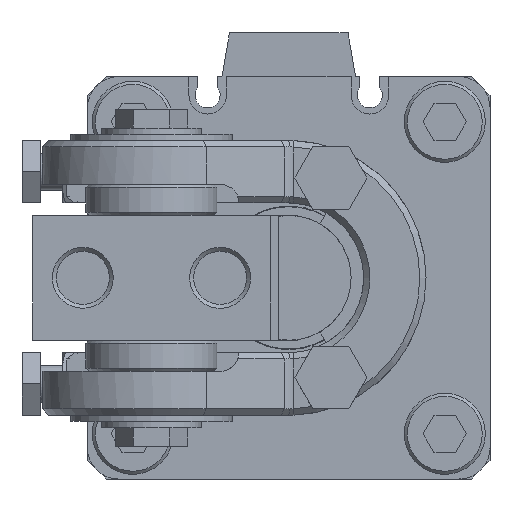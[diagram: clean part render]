
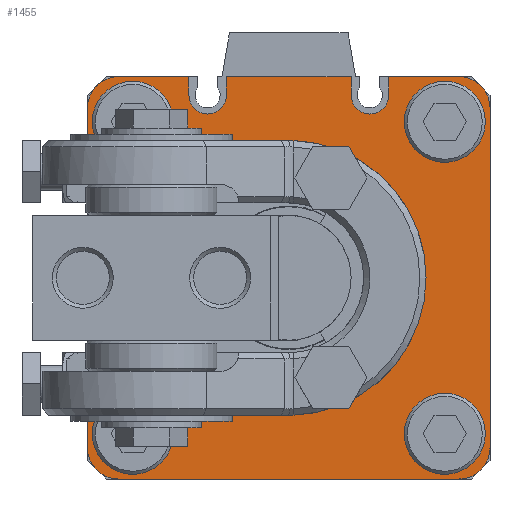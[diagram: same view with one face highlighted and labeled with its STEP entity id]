
A CAD part, front view. The second image highlights one B-rep face of the part: STEP entity #1455.
In plain terms, the highlighted planar face has unit normal (0, -1, 0).
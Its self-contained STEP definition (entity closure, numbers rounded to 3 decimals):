
#575=CIRCLE('',#8653,5.);
#576=CIRCLE('',#8654,5.);
#577=CIRCLE('',#8655,5.);
#578=CIRCLE('',#8656,3.);
#579=CIRCLE('',#8657,3.);
#580=CIRCLE('',#8658,5.);
#581=CIRCLE('',#8659,4.3);
#582=CIRCLE('',#8660,4.3);
#583=CIRCLE('',#8661,4.3);
#584=CIRCLE('',#8662,4.3);
#585=CIRCLE('',#8663,8.);
#586=CIRCLE('',#8664,22.);
#587=CIRCLE('',#8665,8.);
#936=FACE_BOUND('',#2660,.T.);
#937=FACE_BOUND('',#2661,.T.);
#938=FACE_BOUND('',#2662,.T.);
#939=FACE_BOUND('',#2663,.T.);
#940=FACE_BOUND('',#2664,.T.);
#941=FACE_BOUND('',#2665,.T.);
#1455=ADVANCED_FACE('',(#936,#937,#938,#939,#940,#941),#2011,.F.);
#2011=PLANE('',#8666);
#2660=EDGE_LOOP('',(#3561,#3562,#3563,#3564,#3565,#3566,#3567,#3568,#3569,
#3570,#3571,#3572,#3573,#3574,#3575,#3576));
#2661=EDGE_LOOP('',(#3577));
#2662=EDGE_LOOP('',(#3578));
#2663=EDGE_LOOP('',(#3579));
#2664=EDGE_LOOP('',(#3580));
#2665=EDGE_LOOP('',(#3581,#3582,#3583,#3584,#3585,#3586));
#3561=ORIENTED_EDGE('',*,*,#6442,.T.);
#3562=ORIENTED_EDGE('',*,*,#6443,.F.);
#3563=ORIENTED_EDGE('',*,*,#6444,.T.);
#3564=ORIENTED_EDGE('',*,*,#6445,.F.);
#3565=ORIENTED_EDGE('',*,*,#6446,.T.);
#3566=ORIENTED_EDGE('',*,*,#6447,.F.);
#3567=ORIENTED_EDGE('',*,*,#6448,.T.);
#3568=ORIENTED_EDGE('',*,*,#6449,.F.);
#3569=ORIENTED_EDGE('',*,*,#6450,.F.);
#3570=ORIENTED_EDGE('',*,*,#6451,.F.);
#3571=ORIENTED_EDGE('',*,*,#6452,.T.);
#3572=ORIENTED_EDGE('',*,*,#6453,.F.);
#3573=ORIENTED_EDGE('',*,*,#6454,.F.);
#3574=ORIENTED_EDGE('',*,*,#6455,.F.);
#3575=ORIENTED_EDGE('',*,*,#6456,.T.);
#3576=ORIENTED_EDGE('',*,*,#6457,.F.);
#3577=ORIENTED_EDGE('',*,*,#6458,.T.);
#3578=ORIENTED_EDGE('',*,*,#6459,.T.);
#3579=ORIENTED_EDGE('',*,*,#6460,.T.);
#3580=ORIENTED_EDGE('',*,*,#6461,.T.);
#3581=ORIENTED_EDGE('',*,*,#6462,.T.);
#3582=ORIENTED_EDGE('',*,*,#6463,.T.);
#3583=ORIENTED_EDGE('',*,*,#6464,.F.);
#3584=ORIENTED_EDGE('',*,*,#6465,.F.);
#3585=ORIENTED_EDGE('',*,*,#6466,.T.);
#3586=ORIENTED_EDGE('',*,*,#6438,.F.);
#5652=VERTEX_POINT('',#12044);
#5653=VERTEX_POINT('',#12045);
#5656=VERTEX_POINT('',#12053);
#5657=VERTEX_POINT('',#12054);
#5658=VERTEX_POINT('',#12056);
#5659=VERTEX_POINT('',#12058);
#5660=VERTEX_POINT('',#12060);
#5661=VERTEX_POINT('',#12062);
#5662=VERTEX_POINT('',#12064);
#5663=VERTEX_POINT('',#12066);
#5664=VERTEX_POINT('',#12068);
#5665=VERTEX_POINT('',#12070);
#5666=VERTEX_POINT('',#12072);
#5667=VERTEX_POINT('',#12074);
#5668=VERTEX_POINT('',#12076);
#5669=VERTEX_POINT('',#12078);
#5670=VERTEX_POINT('',#12080);
#5671=VERTEX_POINT('',#12082);
#5672=VERTEX_POINT('',#12085);
#5673=VERTEX_POINT('',#12087);
#5674=VERTEX_POINT('',#12089);
#5675=VERTEX_POINT('',#12091);
#5676=VERTEX_POINT('',#12093);
#5677=VERTEX_POINT('',#12095);
#5678=VERTEX_POINT('',#12097);
#5679=VERTEX_POINT('',#12099);
#6438=EDGE_CURVE('',#5652,#5653,#7505,.T.);
#6442=EDGE_CURVE('',#5656,#5657,#575,.T.);
#6443=EDGE_CURVE('',#5658,#5657,#7509,.T.);
#6444=EDGE_CURVE('',#5658,#5659,#576,.T.);
#6445=EDGE_CURVE('',#5660,#5659,#7510,.T.);
#6446=EDGE_CURVE('',#5660,#5661,#577,.T.);
#6447=EDGE_CURVE('',#5662,#5661,#7511,.T.);
#6448=EDGE_CURVE('',#5662,#5663,#7512,.T.);
#6449=EDGE_CURVE('',#5664,#5663,#578,.T.);
#6450=EDGE_CURVE('',#5665,#5664,#7513,.T.);
#6451=EDGE_CURVE('',#5666,#5665,#7514,.T.);
#6452=EDGE_CURVE('',#5666,#5667,#7515,.T.);
#6453=EDGE_CURVE('',#5668,#5667,#579,.T.);
#6454=EDGE_CURVE('',#5669,#5668,#7516,.T.);
#6455=EDGE_CURVE('',#5670,#5669,#7517,.T.);
#6456=EDGE_CURVE('',#5670,#5671,#580,.T.);
#6457=EDGE_CURVE('',#5656,#5671,#7518,.T.);
#6458=EDGE_CURVE('',#5672,#5672,#581,.T.);
#6459=EDGE_CURVE('',#5673,#5673,#582,.T.);
#6460=EDGE_CURVE('',#5674,#5674,#583,.T.);
#6461=EDGE_CURVE('',#5675,#5675,#584,.T.);
#6462=EDGE_CURVE('',#5652,#5676,#585,.T.);
#6463=EDGE_CURVE('',#5676,#5677,#7519,.T.);
#6464=EDGE_CURVE('',#5678,#5677,#586,.T.);
#6465=EDGE_CURVE('',#5679,#5678,#7520,.T.);
#6466=EDGE_CURVE('',#5679,#5653,#587,.T.);
#7505=LINE('',#12043,#8079);
#7509=LINE('',#12055,#8083);
#7510=LINE('',#12059,#8084);
#7511=LINE('',#12063,#8085);
#7512=LINE('',#12065,#8086);
#7513=LINE('',#12069,#8087);
#7514=LINE('',#12071,#8088);
#7515=LINE('',#12073,#8089);
#7516=LINE('',#12077,#8090);
#7517=LINE('',#12079,#8091);
#7518=LINE('',#12083,#8092);
#7519=LINE('',#12094,#8093);
#7520=LINE('',#12098,#8094);
#8079=VECTOR('',#9639,1.);
#8083=VECTOR('',#9647,1.);
#8084=VECTOR('',#9650,1.);
#8085=VECTOR('',#9653,1.);
#8086=VECTOR('',#9654,1.);
#8087=VECTOR('',#9657,1.);
#8088=VECTOR('',#9658,1.);
#8089=VECTOR('',#9659,1.);
#8090=VECTOR('',#9662,1.);
#8091=VECTOR('',#9663,1.);
#8092=VECTOR('',#9666,1.);
#8093=VECTOR('',#9677,1.);
#8094=VECTOR('',#9680,1.);
#8653=AXIS2_PLACEMENT_3D('',#12052,#9645,#9646);
#8654=AXIS2_PLACEMENT_3D('',#12057,#9648,#9649);
#8655=AXIS2_PLACEMENT_3D('',#12061,#9651,#9652);
#8656=AXIS2_PLACEMENT_3D('',#12067,#9655,#9656);
#8657=AXIS2_PLACEMENT_3D('',#12075,#9660,#9661);
#8658=AXIS2_PLACEMENT_3D('',#12081,#9664,#9665);
#8659=AXIS2_PLACEMENT_3D('',#12084,#9667,#9668);
#8660=AXIS2_PLACEMENT_3D('',#12086,#9669,#9670);
#8661=AXIS2_PLACEMENT_3D('',#12088,#9671,#9672);
#8662=AXIS2_PLACEMENT_3D('',#12090,#9673,#9674);
#8663=AXIS2_PLACEMENT_3D('',#12092,#9675,#9676);
#8664=AXIS2_PLACEMENT_3D('',#12096,#9678,#9679);
#8665=AXIS2_PLACEMENT_3D('',#12100,#9681,#9682);
#8666=AXIS2_PLACEMENT_3D('',#12101,#9683,#9684);
#9639=DIRECTION('',(0.,0.,-1.));
#9645=DIRECTION('',(0.,-1.,0.));
#9646=DIRECTION('',(-1.,0.,0.));
#9647=DIRECTION('',(-1.,0.,0.));
#9648=DIRECTION('',(0.,-1.,0.));
#9649=DIRECTION('',(0.,0.,-1.));
#9650=DIRECTION('',(0.,0.,-1.));
#9651=DIRECTION('',(0.,-1.,0.));
#9652=DIRECTION('',(1.,0.,0.));
#9653=DIRECTION('',(1.,0.,0.));
#9654=DIRECTION('',(0.,0.,-1.));
#9655=DIRECTION('',(0.,-1.,0.));
#9656=DIRECTION('',(-1.,0.,0.));
#9657=DIRECTION('',(0.,0.,-1.));
#9658=DIRECTION('',(1.,0.,0.));
#9659=DIRECTION('',(0.,0.,-1.));
#9660=DIRECTION('',(0.,-1.,0.));
#9661=DIRECTION('',(-1.,0.,0.));
#9662=DIRECTION('',(0.,0.,-1.));
#9663=DIRECTION('',(1.,0.,0.));
#9664=DIRECTION('',(0.,-1.,0.));
#9665=DIRECTION('',(0.,0.,1.));
#9666=DIRECTION('',(0.,0.,1.));
#9667=DIRECTION('',(0.,1.,0.));
#9668=DIRECTION('',(0.,0.,-1.));
#9669=DIRECTION('',(0.,1.,0.));
#9670=DIRECTION('',(0.,0.,-1.));
#9671=DIRECTION('',(0.,1.,0.));
#9672=DIRECTION('',(0.,0.,-1.));
#9673=DIRECTION('',(0.,1.,0.));
#9674=DIRECTION('',(0.,0.,-1.));
#9675=DIRECTION('',(0.,1.,0.));
#9676=DIRECTION('',(-1.,0.,0.));
#9677=DIRECTION('',(1.,0.,0.));
#9678=DIRECTION('',(0.,-1.,0.));
#9679=DIRECTION('',(0.,0.,-1.));
#9680=DIRECTION('',(1.,0.,0.));
#9681=DIRECTION('',(0.,1.,0.));
#9682=DIRECTION('',(0.,0.,-1.));
#9683=DIRECTION('',(0.,1.,0.));
#9684=DIRECTION('',(0.,0.,-1.));
#12043=CARTESIAN_POINT('',(17.,-11.,-25.25));
#12044=CARTESIAN_POINT('',(17.,-11.,-25.25));
#12045=CARTESIAN_POINT('',(17.,-11.,-53.25));
#12052=CARTESIAN_POINT('',(5.,-11.,-66.5));
#12053=CARTESIAN_POINT('',(0.,-11.,-66.5));
#12054=CARTESIAN_POINT('',(5.,-11.,-71.5));
#12055=CARTESIAN_POINT('',(59.5,-11.,-71.5));
#12056=CARTESIAN_POINT('',(59.5,-11.,-71.5));
#12057=CARTESIAN_POINT('',(59.5,-11.,-66.5));
#12058=CARTESIAN_POINT('',(64.5,-11.,-66.5));
#12059=CARTESIAN_POINT('',(64.5,-11.,-12.));
#12060=CARTESIAN_POINT('',(64.5,-11.,-12.));
#12061=CARTESIAN_POINT('',(59.5,-11.,-12.));
#12062=CARTESIAN_POINT('',(59.5,-11.,-7.));
#12063=CARTESIAN_POINT('',(48.25,-11.,-7.));
#12064=CARTESIAN_POINT('',(48.25,-11.,-7.));
#12065=CARTESIAN_POINT('',(48.25,-11.,-7.));
#12066=CARTESIAN_POINT('',(48.25,-11.,-10.));
#12067=CARTESIAN_POINT('',(45.25,-11.,-10.));
#12068=CARTESIAN_POINT('',(42.25,-11.,-10.));
#12069=CARTESIAN_POINT('',(42.25,-11.,-7.));
#12070=CARTESIAN_POINT('',(42.25,-11.,-7.));
#12071=CARTESIAN_POINT('',(22.25,-11.,-7.));
#12072=CARTESIAN_POINT('',(22.25,-11.,-7.));
#12073=CARTESIAN_POINT('',(22.25,-11.,-7.));
#12074=CARTESIAN_POINT('',(22.25,-11.,-10.));
#12075=CARTESIAN_POINT('',(19.25,-11.,-10.));
#12076=CARTESIAN_POINT('',(16.25,-11.,-10.));
#12077=CARTESIAN_POINT('',(16.25,-11.,-7.));
#12078=CARTESIAN_POINT('',(16.25,-11.,-7.));
#12079=CARTESIAN_POINT('',(5.,-11.,-7.));
#12080=CARTESIAN_POINT('',(5.,-11.,-7.));
#12081=CARTESIAN_POINT('',(5.,-11.,-12.));
#12082=CARTESIAN_POINT('',(0.,-11.,-12.));
#12083=CARTESIAN_POINT('',(0.,-11.,-66.5));
#12084=CARTESIAN_POINT('',(7.25,-11.,-64.25));
#12085=CARTESIAN_POINT('',(7.25,-11.,-68.55));
#12086=CARTESIAN_POINT('',(57.25,-11.,-64.25));
#12087=CARTESIAN_POINT('',(57.25,-11.,-68.55));
#12088=CARTESIAN_POINT('',(57.25,-11.,-14.25));
#12089=CARTESIAN_POINT('',(57.25,-11.,-18.55));
#12090=CARTESIAN_POINT('',(7.25,-11.,-14.25));
#12091=CARTESIAN_POINT('',(7.25,-11.,-18.55));
#12092=CARTESIAN_POINT('',(25.,-11.,-25.25));
#12093=CARTESIAN_POINT('',(25.,-11.,-17.25));
#12094=CARTESIAN_POINT('',(25.,-11.,-17.25));
#12095=CARTESIAN_POINT('',(32.25,-11.,-17.25));
#12096=CARTESIAN_POINT('',(32.25,-11.,-39.25));
#12097=CARTESIAN_POINT('',(32.25,-11.,-61.25));
#12098=CARTESIAN_POINT('',(25.,-11.,-61.25));
#12099=CARTESIAN_POINT('',(25.,-11.,-61.25));
#12100=CARTESIAN_POINT('',(25.,-11.,-53.25));
#12101=CARTESIAN_POINT('',(32.25,-11.,-39.25));
